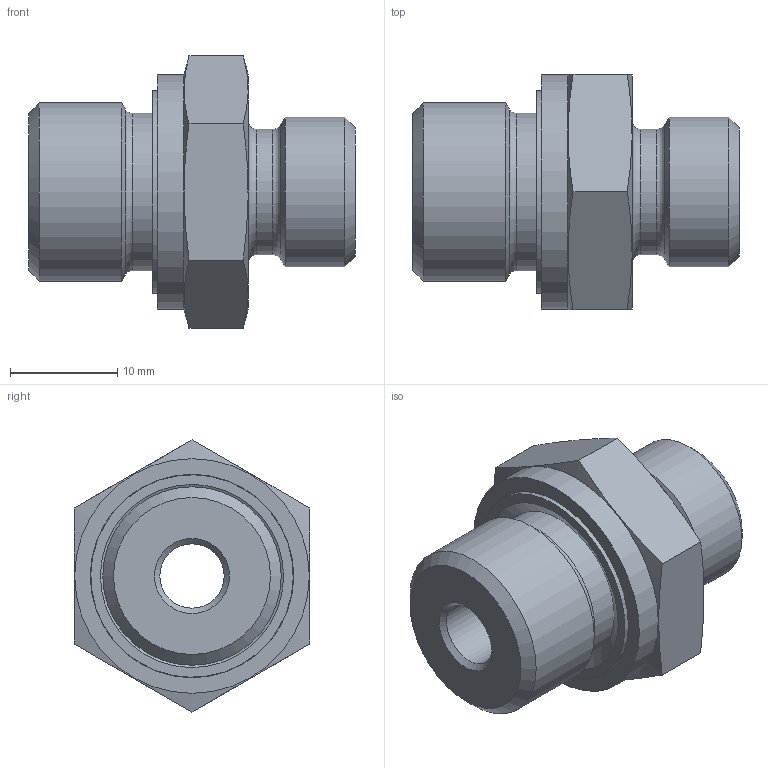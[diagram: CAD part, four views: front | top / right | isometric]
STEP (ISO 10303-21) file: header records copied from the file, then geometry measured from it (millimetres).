
FILE_DESCRIPTION( ( 'Unknown' ), '1' );
FILE_NAME( 'C:/Users/p.nanko/Desktop/3D SR/XGE08LED03.stp', 'Unknown', ( 'Peter Nanko' ), ( 'Armaturen Arndt' ), 'PSStep 14.0', 'Solid Edge ST4', ' ' );
FILE_SCHEMA( ( 'AUTOMOTIVE_DESIGN { 1 0 10303 214 1 1 1 1 }' ) );
Length unit declared in the file: millimetre
Products named in the file (3): Assem1; XGE08LED033; EDRING03
Assembly tree (2 placements, depth 2):
  Assem1
    XGE08LED033
    EDRING03
Bounding box: 30.5 x 22 x 25.4 mm (x, y, z)
Volume: 6205 mm3; surface area: 3572.6 mm2
Topology: 2 solids, 2 shells, 37 faces, 74 edges, 45 vertices
Faces by surface type: plane 14, cylinder 10, cone 9, torus 4
Full cylindrical faces by diameter (mm): 6 x1, 8 x1, 11.7 x1, 14 x1, 14.7 x2, 16.662 x1, 18.9 x1, 19 x1, 21.9 x1
Entity records: 1246 total; most frequent: CARTESIAN_POINT 230, DIRECTION 146, ORIENTED_EDGE 96, AXIS2_PLACEMENT_3D 70, EDGE_LOOP 68, FACE_OUTER_BOUND 51, EDGE_CURVE 48, VERTEX_POINT 42
